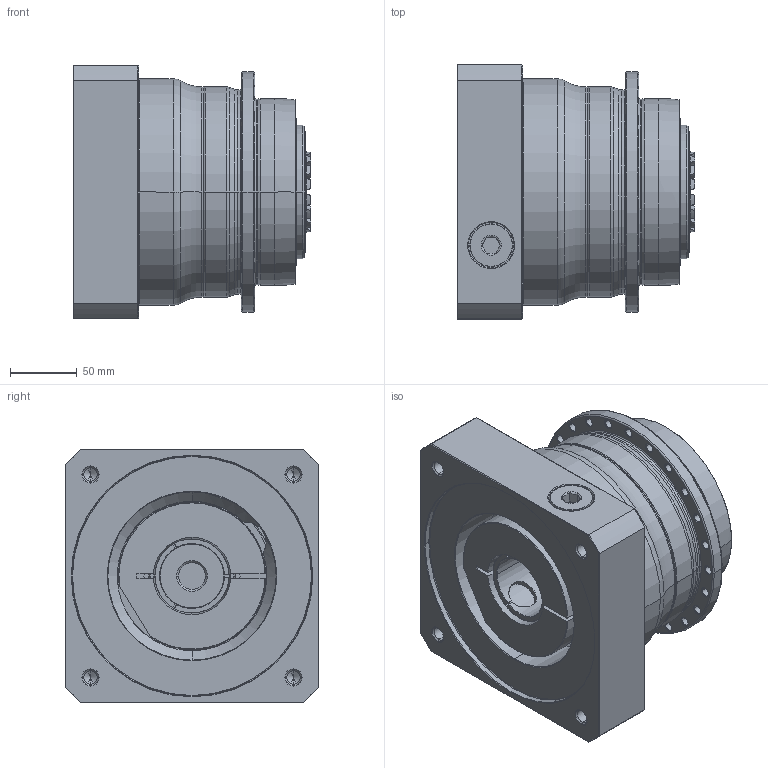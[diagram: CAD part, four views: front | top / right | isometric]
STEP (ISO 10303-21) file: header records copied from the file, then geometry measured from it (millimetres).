
FILE_DESCRIPTION((''),'2;1');
FILE_NAME('APC140_1ST_48-P0409B10201_ASM','2018-06-27T',('d01226'),(''),'PRO/ENGINEER BY PARAMETRIC TECHNOLOGY CORPORATION, 2008410','PRO/ENGINEER BY PARAMETRIC TECHNOLOGY CORPORATION, 2008410','');
FILE_SCHEMA(('CONFIG_CONTROL_DESIGN'));
Length unit declared in the file: millimetre
Products named in the file (9): P0278501003; P03595D0103; P1318510601; P0503B00016; P0912556001; P1211500001; P0409B10201; 21711426021; APC140_1ST_48-P0409B10201_ASM
Assembly tree (8 placements, depth 2):
  APC140_1ST_48-P0409B10201_ASM
    P0278501003
    P03595D0103
    P1318510601
    P0503B00016
    P0912556001
    P1211500001
    P0409B10201
    21711426021
Bounding box: 178.1 x 190 x 190 mm (x, y, z)
Volume: 3454713.7 mm3; surface area: 425341.4 mm2
Topology: 9 solids, 19 shells, 668 faces, 1615 edges, 985 vertices
Faces by surface type: cone 222, cylinder 211, plane 121, torus 100, bspline 14
Entity records: 25084 total; most frequent: CARTESIAN_POINT 9070, DIRECTION 3571, ORIENTED_EDGE 3152, EDGE_CURVE 1597, AXIS2_PLACEMENT_3D 1549, VERTEX_POINT 985, CIRCLE 868, EDGE_LOOP 770
